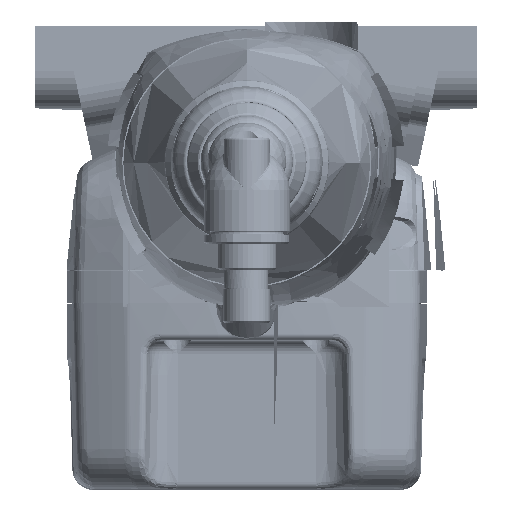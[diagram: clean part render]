
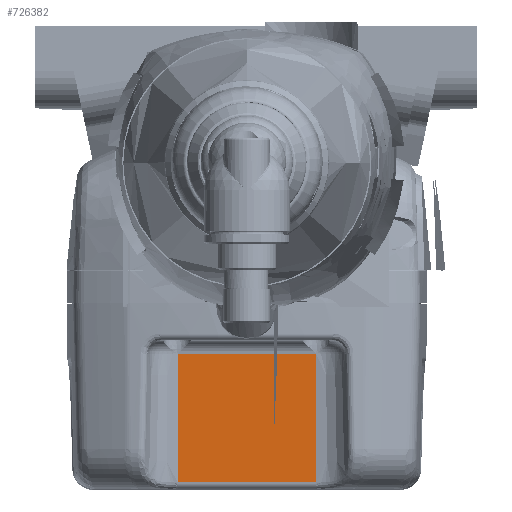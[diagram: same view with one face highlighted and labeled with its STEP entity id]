
A CAD part, top view. The second image highlights one B-rep face of the part: STEP entity #726382.
In plain terms, the highlighted planar face has unit normal (0, -0.026, 1).
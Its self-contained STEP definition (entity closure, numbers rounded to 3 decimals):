
#712737=DIRECTION('',(1.,0.,0.));
#712738=VECTOR('',#712737,0.423);
#712739=CARTESIAN_POINT('',(-15.,-38.789,
51.444));
#712740=LINE('',#712739,#712738);
#712758=DIRECTION('',(0.,-1.,
-0.026));
#712759=VECTOR('',#712758,27.877);
#712760=CARTESIAN_POINT('',(-15.,-10.921,52.173));
#712761=LINE('',#712760,#712759);
#714946=DIRECTION('',(1.,0.,0.));
#714947=VECTOR('',#714946,0.423);
#714948=CARTESIAN_POINT('',(14.577,-38.789,
51.444));
#714949=LINE('',#714948,#714947);
#714977=DIRECTION('',(0.,1.,0.026));
#714978=VECTOR('',#714977,27.877);
#714979=CARTESIAN_POINT('',(15.,-38.789,
51.444));
#714980=LINE('',#714979,#714978);
#715117=DIRECTION('',(-1.,0.,0.));
#715118=VECTOR('',#715117,30.);
#715119=CARTESIAN_POINT('',(15.,-10.921,
52.173));
#715120=LINE('',#715119,#715118);
#715255=DIRECTION('',(1.,0.,0.));
#715256=VECTOR('',#715255,29.155);
#715257=CARTESIAN_POINT('',(-14.577,-38.789,
51.444));
#715258=LINE('',#715257,#715256);
#724365=CARTESIAN_POINT('',(-15.,-38.789,
51.444));
#724366=CARTESIAN_POINT('',(-14.577,-38.789,
51.444));
#724367=VERTEX_POINT('',#724365);
#724368=VERTEX_POINT('',#724366);
#724369=CARTESIAN_POINT('',(-15.,-10.921,52.173));
#724370=VERTEX_POINT('',#724369);
#724371=CARTESIAN_POINT('',(15.,-10.921,
52.173));
#724372=VERTEX_POINT('',#724371);
#724373=CARTESIAN_POINT('',(15.,-38.789,
51.444));
#724374=VERTEX_POINT('',#724373);
#724375=CARTESIAN_POINT('',(14.577,-38.789,
51.444));
#724376=VERTEX_POINT('',#724375);
#726364=CARTESIAN_POINT('',(-399999.654,-8.,52.25));
#726365=DIRECTION('',(0.,0.026,-1.));
#726366=DIRECTION('',(0.,-1.,-0.026));
#726367=AXIS2_PLACEMENT_3D('',#726364,#726365,#726366);
#726368=PLANE('',#726367);
#726370=ORIENTED_EDGE('',*,*,#726369,.F.);
#726372=ORIENTED_EDGE('',*,*,#726371,.F.);
#726374=ORIENTED_EDGE('',*,*,#726373,.F.);
#726376=ORIENTED_EDGE('',*,*,#726375,.F.);
#726378=ORIENTED_EDGE('',*,*,#726377,.F.);
#726379=ORIENTED_EDGE('',*,*,#726354,.F.);
#726380=EDGE_LOOP('',(#726370,#726372,#726374,#726376,#726378,#726379));
#726381=FACE_OUTER_BOUND('',#726380,.F.);
#726382=ADVANCED_FACE('',(#726381),#726368,.F.);
#726354=EDGE_CURVE('',#724367,#724368,#712740,.T.);
#726369=EDGE_CURVE('',#724370,#724367,#712761,.T.);
#726371=EDGE_CURVE('',#724372,#724370,#715120,.T.);
#726373=EDGE_CURVE('',#724374,#724372,#714980,.T.);
#726375=EDGE_CURVE('',#724376,#724374,#714949,.T.);
#726377=EDGE_CURVE('',#724368,#724376,#715258,.T.);
